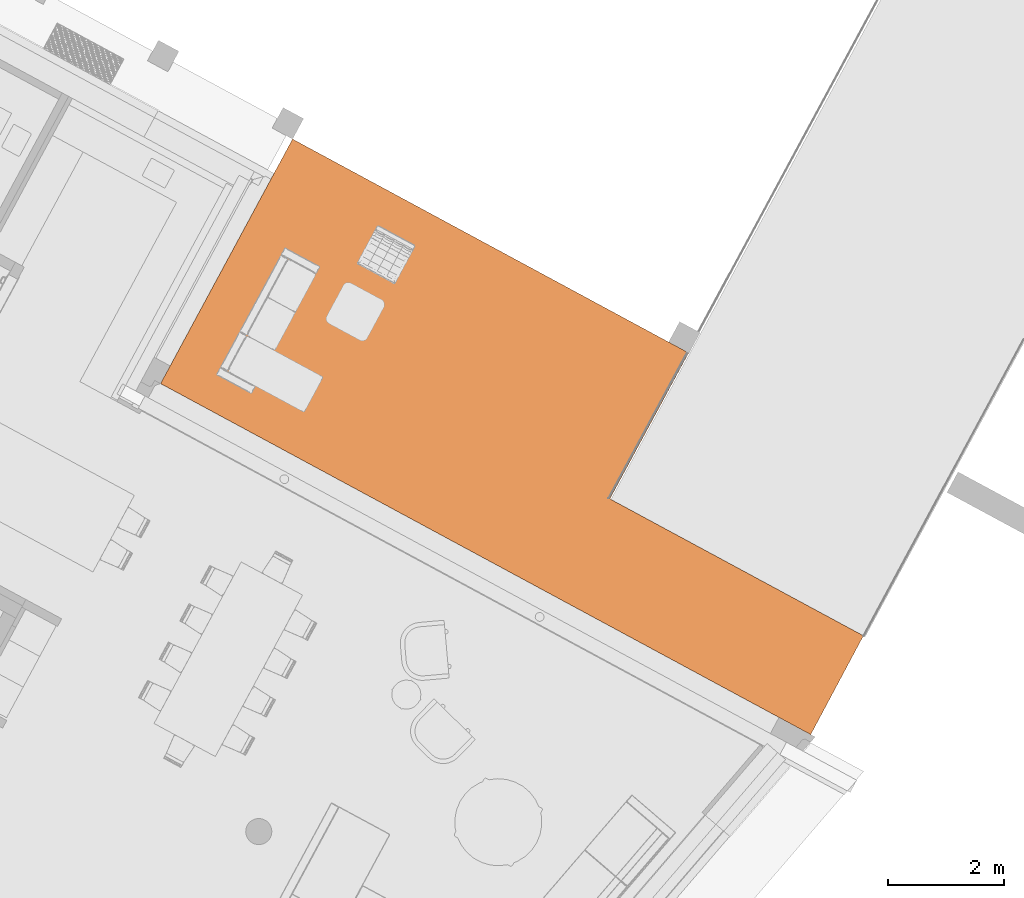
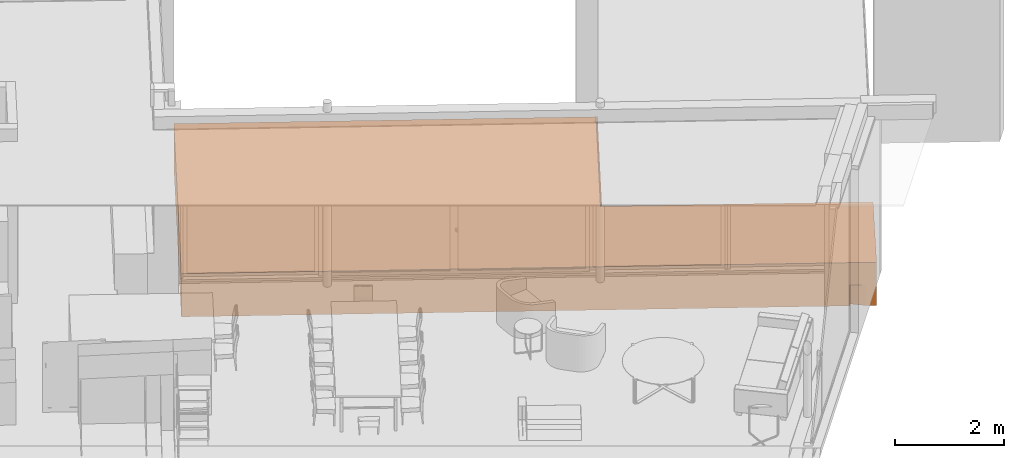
# One storey, part 52 of 52: 1 proxy.
"""IFC2X3 building model written with IfcOpenShell, lengths in metres."""

from ifc_helpers import new_model, entity, si_unit, converted_unit, derived_unit, money_unit, direction, frame, origin_with_axes, place, context, subcontext, project, spatial, faceted_brep, material, type_object, element, save


model = new_model("IFC2X3")

# Units and contexts
model_context = context("Model", 3, precision=1e-05, world=origin_with_axes(), true_north=direction((0.0, 1.0)))
body_context = subcontext(model_context, "Body", "Model", "MODEL_VIEW")
ifc_project = project(units=[si_unit("LENGTHUNIT", "METRE"), si_unit("AREAUNIT", "SQUARE_METRE"), si_unit("VOLUMEUNIT", "CUBIC_METRE"), converted_unit("PLANEANGLEUNIT", "DEGREE", entity("IfcPlaneAngleMeasure", 0.0174532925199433), si_unit("PLANEANGLEUNIT", "RADIAN"), dimensions=[0, 0, 0, 0, 0, 0, 0]), money_unit("EUR"), converted_unit("TIMEUNIT", "Year", entity("IfcTimeMeasure", 31556926.0), si_unit("TIMEUNIT", "SECOND"), dimensions=[0, 0, 1, 0, 0, 0, 0]), si_unit("MASSUNIT", "GRAM", prefix="KILO"), si_unit("THERMODYNAMICTEMPERATUREUNIT", "DEGREE_CELSIUS"), si_unit("LUMINOUSINTENSITYUNIT", "LUMEN"), si_unit("ENERGYUNIT", "JOULE", prefix="MEGA"), derived_unit("THERMALCONDUCTANCEUNIT", [(si_unit("POWERUNIT", "WATT"), 1), (si_unit("LENGTHUNIT", "METRE"), -1), (si_unit("THERMODYNAMICTEMPERATUREUNIT", "KELVIN"), -1)]), derived_unit("SPECIFICHEATCAPACITYUNIT", [(si_unit("ENERGYUNIT", "JOULE"), 1), (si_unit("MASSUNIT", "GRAM", prefix="KILO"), -1), (si_unit("THERMODYNAMICTEMPERATUREUNIT", "KELVIN"), -1)]), derived_unit("MASSDENSITYUNIT", [(si_unit("MASSUNIT", "GRAM", prefix="KILO"), 1), (si_unit("VOLUMEUNIT", "CUBIC_METRE"), -1)])], contexts=[model_context])

# Site, building, storey
site_placement = place(None, frame((-3.949935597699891, 1.740105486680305, 0.0), z_axis=(0.0, 0.0, 1.0), x_axis=(0.8799804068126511, -0.475009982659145, 0.0)))
site = spatial("IfcSite", under=ifc_project, at=site_placement, Name="Gelände", CompositionType="ELEMENT")
building_placement = place(site_placement, origin_with_axes())
building = spatial("IfcBuilding", under=site, at=building_placement, Name="Gebäude", CompositionType="ELEMENT")
storey_placement = place(building_placement, origin_with_axes())
storey = spatial("IfcBuildingStorey", under=building, at=storey_placement, Name="Erdgeschoss", CompositionType="ELEMENT", Elevation=0.0)

# Proxy
ifc_material = material(Name="Holz, Treppenstufe")
building_element_proxy_type = type_object("IfcBuildingElementProxyType", Name="Holz, Treppenstufe 966", PredefinedType="NOTDEFINED")
proxy_placement = place(storey_placement, frame((25.43796349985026, 20.18527610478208, 0.0), z_axis=(0.0, 0.0, 1.0), x_axis=(1.0, 0.0, 0.0)))
element("IfcBuildingElementProxy", 1, at=proxy_placement, inside=storey, type_object=building_element_proxy_type, material=ifc_material, Name="Decke000", context=body_context, shape_type="Brep", body=[
    faceted_brep([(-0.02867551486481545, 0.0, 0.0), (-0.02867551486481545, 0.0, -0.8737883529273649), (-0.01867551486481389, 0.0, -0.8737883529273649), (-0.01867551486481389, 0.0, 0.0), (0.0, 0.0, 0.0), (0.0, 0.0, -0.9655039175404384), (-7.755488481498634, 0.0, -0.9655039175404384), (-7.755488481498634, 0.0, 0.0), (-0.02867551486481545, -2.857470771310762, -0.8737883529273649), (-0.02867551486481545, -2.857470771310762, 0.0), (-0.01867551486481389, -2.857470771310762, -0.8737883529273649), (-0.01867551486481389, -2.857470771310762, 0.0), (-7.755470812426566, -4.787230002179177, 0.0), (4.972968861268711, -4.787230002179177, 0.0), (4.963330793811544, -2.857470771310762, 0.0), (0.0, -2.857470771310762, 0.0), (0.0, -2.857470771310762, -0.9655039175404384), (4.778731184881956, -4.787230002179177, -0.9655039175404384), (4.490566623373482, -4.724292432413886, -0.9655039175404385), (4.476820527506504, -4.787230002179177, -0.9655039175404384), (-7.755470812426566, -4.787230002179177, -0.9655039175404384), (4.963330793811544, -2.857470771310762, -0.9655039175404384), (4.972968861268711, -4.787230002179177, -0.9655039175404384), (4.476820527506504, -4.787230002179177, -0.4999999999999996), (4.778731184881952, -4.787230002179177, -0.4999999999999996), (4.490566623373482, -4.724292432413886, -0.4999999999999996)], [[[0, 1, 2, 3, 4, 5, 6, 7]], [[8, 1, 0, 9]], [[10, 2, 1, 8]], [[10, 11, 3, 2]], [[11, 9, 0, 7, 12, 13, 14, 15, 4, 3]], [[4, 15, 16, 5]], [[17, 18, 19, 20, 6, 5, 16, 21, 22]], [[12, 7, 6, 20]], [[8, 9, 11, 10]], [[20, 19, 23, 24, 17, 22, 13, 12]], [[14, 13, 22, 21]], [[15, 14, 21, 16]], [[18, 17, 24, 25]], [[23, 19, 18, 25]], [[25, 24, 23]]]),
])

save(model, "model.ifc")
